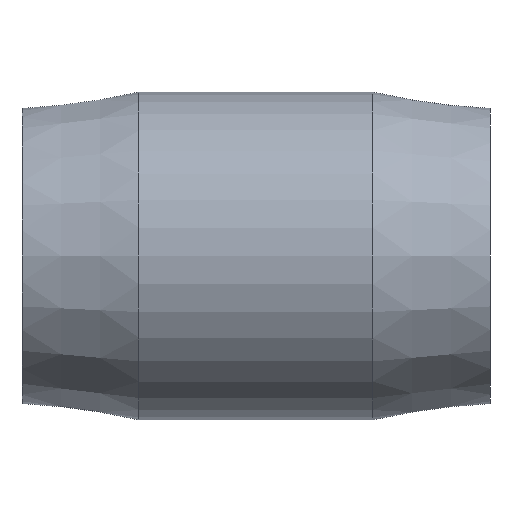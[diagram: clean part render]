
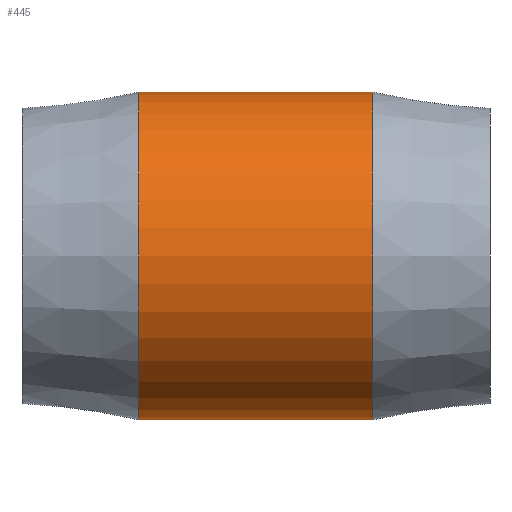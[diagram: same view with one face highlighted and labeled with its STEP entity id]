
A CAD part, front view. The second image highlights one B-rep face of the part: STEP entity #445.
In plain terms, the highlighted cylindrical face has radius 41.021 mm (diameter 82.042 mm), a full revolution.
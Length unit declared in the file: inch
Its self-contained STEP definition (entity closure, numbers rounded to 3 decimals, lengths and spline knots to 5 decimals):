
#43=LINE('',#830,#59);
#59=VECTOR('',#609,1.615);
#73=CYLINDRICAL_SURFACE('',#503,1.615);
#91=FACE_OUTER_BOUND('',#123,.T.);
#123=EDGE_LOOP('',(#333,#334,#335,#336,#337,#338));
#157=CIRCLE('',#504,1.615);
#158=CIRCLE('',#505,1.615);
#159=CIRCLE('',#506,1.615);
#160=CIRCLE('',#507,1.615);
#203=VERTEX_POINT('',#825);
#204=VERTEX_POINT('',#826);
#205=VERTEX_POINT('',#829);
#206=VERTEX_POINT('',#831);
#255=EDGE_CURVE('',#203,#204,#157,.T.);
#256=EDGE_CURVE('',#204,#203,#158,.T.);
#257=EDGE_CURVE('',#204,#205,#43,.T.);
#258=EDGE_CURVE('',#205,#206,#159,.T.);
#259=EDGE_CURVE('',#206,#205,#160,.T.);
#333=ORIENTED_EDGE('',*,*,#255,.F.);
#334=ORIENTED_EDGE('',*,*,#256,.F.);
#335=ORIENTED_EDGE('',*,*,#257,.T.);
#336=ORIENTED_EDGE('',*,*,#258,.T.);
#337=ORIENTED_EDGE('',*,*,#259,.T.);
#338=ORIENTED_EDGE('',*,*,#257,.F.);
#445=ADVANCED_FACE('',(#91),#73,.T.);
#503=AXIS2_PLACEMENT_3D('',#824,#603,#604);
#504=AXIS2_PLACEMENT_3D('',#827,#605,#606);
#505=AXIS2_PLACEMENT_3D('',#828,#607,#608);
#506=AXIS2_PLACEMENT_3D('',#832,#610,#611);
#507=AXIS2_PLACEMENT_3D('',#833,#612,#613);
#603=DIRECTION('center_axis',(1.,0.,0.));
#604=DIRECTION('ref_axis',(0.,1.,0.));
#605=DIRECTION('center_axis',(1.,0.,0.));
#606=DIRECTION('ref_axis',(0.,0.,-1.));
#607=DIRECTION('center_axis',(1.,0.,0.));
#608=DIRECTION('ref_axis',(0.,0.,-1.));
#609=DIRECTION('',(-1.,0.,0.));
#610=DIRECTION('center_axis',(1.,0.,0.));
#611=DIRECTION('ref_axis',(0.,0.,-1.));
#612=DIRECTION('center_axis',(1.,0.,0.));
#613=DIRECTION('ref_axis',(0.,0.,-1.));
#824=CARTESIAN_POINT('Origin',(0.,0.,0.));
#825=CARTESIAN_POINT('',(1.1525,1.615,0.));
#826=CARTESIAN_POINT('',(1.1525,-1.615,0.));
#827=CARTESIAN_POINT('Origin',(1.1525,0.,0.));
#828=CARTESIAN_POINT('Origin',(1.1525,0.,0.));
#829=CARTESIAN_POINT('',(-1.1525,-1.615,0.));
#830=CARTESIAN_POINT('',(0.,-1.615,0.));
#831=CARTESIAN_POINT('',(-1.1525,1.615,0.));
#832=CARTESIAN_POINT('Origin',(-1.1525,0.,0.));
#833=CARTESIAN_POINT('Origin',(-1.1525,0.,0.));
